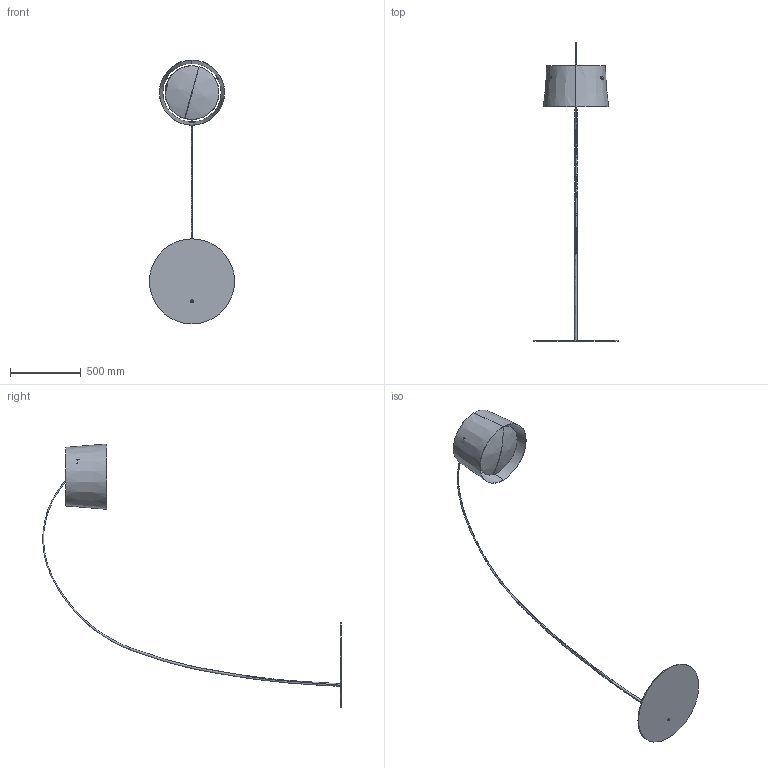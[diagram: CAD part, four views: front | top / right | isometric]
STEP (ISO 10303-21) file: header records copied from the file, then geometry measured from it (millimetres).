
FILE_DESCRIPTION (( 'STEP AP203' ), '1' );
FILE_NAME ('TWIGGY WOOD_terra.STEP', '2020-07-15T08:49:05', ( '' ), ( '' ), 'SwSTEP 2.0', 'SolidWorks 2020', '' );
FILE_SCHEMA (( 'CONFIG_CONTROL_DESIGN' ));
Length unit declared in the file: millimetre
Products named in the file (1): TWIGGY WOOD_terra
Bounding box: 600 x 2102.12 x 1860.51 mm (x, y, z)
Surface area: 1814532.9 mm2 (no closed solid volume)
Topology: 0 solids, 19 shells, 68 faces, 853 edges, 756 vertices
Faces by surface type: bspline 20, cone 17, cylinder 10, torus 10, sphere 6, plane 5
Entity records: 12919 total; most frequent: CARTESIAN_POINT 7251, DIRECTION 1168, ORIENTED_EDGE 986, EDGE_CURVE 853, VERTEX_POINT 756, AXIS2_PLACEMENT_3D 563, CIRCLE 514, B_SPLINE_CURVE_WITH_KNOTS 297
